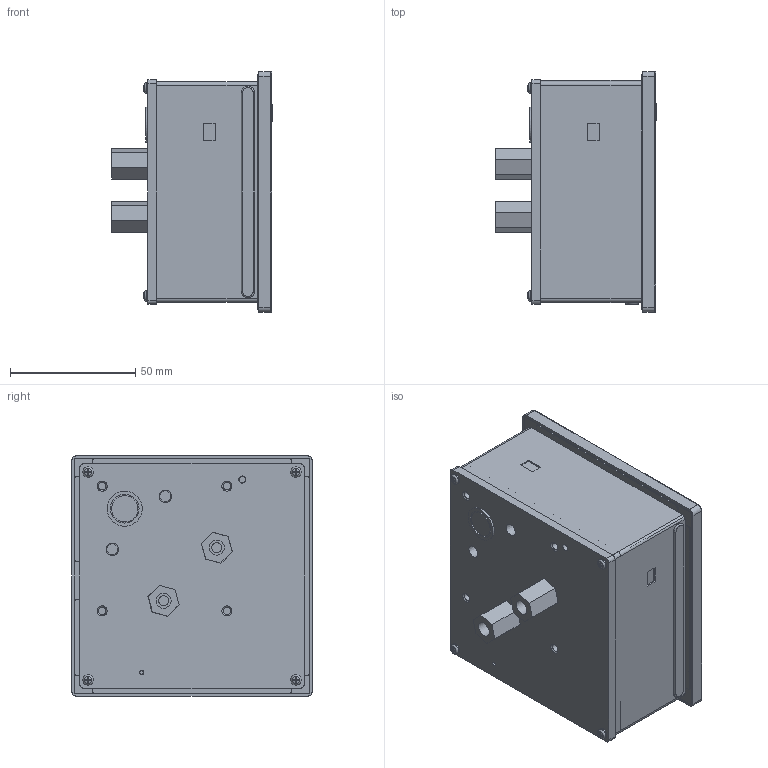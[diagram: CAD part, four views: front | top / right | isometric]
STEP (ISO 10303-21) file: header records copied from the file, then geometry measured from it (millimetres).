
FILE_DESCRIPTION(/* description */ (''),/* implementation_level */ '2;1');
FILE_NAME(/* name */ 'EC3V.step',/* time_stamp */ '2026-04-24T10:35:06+02:00',/* author */ (''),/* organization */ (''),/* preprocessor_version */ 'ST-DEVELOPER v20.1',/* originating_system */ 'Autodesk Translation Framework v15.8.0.0',/* authorisation */ '');
FILE_SCHEMA (('AUTOMOTIVE_DESIGN { 1 0 10303 214 3 1 1 }'));
Products named in the file (40): EC3V; Trasera _3; Sistema EC3V; Aguja EC3V; 72-1ZHIJIAZUJIAN; 72-1SHANGBAOSHILUOMU; 72-1TIAOZHENGBI; 72-1TANDIAN; 96-1KEDONGZUJIAN_ASM; 72-1ZHUANZHOU1; 48-8LVCHENTAO; 96-1ZHENZHICHI; 72-1DONGPIAN; 96-1LVZHEN1; 72-1JINGPIANZUJIAN_ASM; 72-1JINGPIANJIA1; 72-1WUGUOZAIJINPIAN; 72-1YOUGUOZAIJINPIAN; YOUSI; SACI96-1LUODING; DT4C111; 96-1TIEZHONKUANG; 96-1ACZHONGKUANG; 96-1BIAOPAI; 96-3MIANKUANG1; 96-1QIANTIAO; 96-1BOLI; TIAOLING; 96-3TIAOLINGJINQUAN; 72-1HOUKONGGAI; F; 100XIANQUANZUJIAN_ASM; 100AXIANQUAN; 96100ADAODIANGAN; 96-1ACDAODIANGAN; ST2O2X22; ST3X12; M6PIMNGDIAN; LUOMU; DADIANLIUDAODIANGANLUOMU
Assembly tree (49 placements, depth 4):
  EC3V
    Trasera _3
    Sistema EC3V
    Aguja EC3V
      72-1ZHIJIAZUJIAN
      72-1SHANGBAOSHILUOMU
      72-1TIAOZHENGBI
      72-1TANDIAN
      96-1KEDONGZUJIAN_ASM
        72-1ZHUANZHOU1
        48-8LVCHENTAO
        96-1ZHENZHICHI
        72-1DONGPIAN
        96-1LVZHEN1
      72-1JINGPIANZUJIAN_ASM
        72-1JINGPIANJIA1
        72-1WUGUOZAIJINPIAN
        72-1YOUGUOZAIJINPIAN
      YOUSI
      SACI96-1LUODING  x2
    DT4C111
    96-1TIEZHONKUANG
    96-1ACZHONGKUANG
    96-1BIAOPAI
    96-3MIANKUANG1
    96-1QIANTIAO
    96-1BOLI
    96-1ACDAODIANGAN  x2
    ST2O2X22  x4
    ST3X12  x2
    TIAOLING
    96-3TIAOLINGJINQUAN
    72-1HOUKONGGAI
    F
    100XIANQUANZUJIAN_ASM
      100AXIANQUAN
      96100ADAODIANGAN  x2
    M6PIMNGDIAN  x2
    LUOMU  x2
    DADIANLIUDAODIANGANLUOMU  x2
Bounding box: 64.2 x 96 x 96 mm (x, y, z)
Volume: 94020.8 mm3; surface area: 147450.8 mm2
Topology: 46 solids, 49 shells, 1846 faces, 4719 edges, 3049 vertices
Faces by surface type: plane 1009, cylinder 436, bspline 264, cone 88, torus 43, sphere 6
Full cylindrical faces by diameter (mm): 0.48 x2, 1 x3, 1.2 x2, 1.4 x1, 1.63 x44, 1.729 x2, 1.75 x1, 1.8 x1, 1.96 x1, 2 x7, 2.1 x1, 2.3 x1, 2.35 x1, 2.4 x2, 2.5 x6, 2.6 x4, 2.7 x8, 3 x6, 3.1 x2, 3.2 x9, 4 x5, 4.2 x4, 4.6 x2, 5 x2, 6 x14, 6.1 x1, 6.2 x1, 6.5 x2, 7 x2, 7.5 x1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
Entity records: 80251 total; most frequent: CARTESIAN_POINT 41476, ORIENTED_EDGE 7968, DIRECTION 7623, EDGE_CURVE 3988, AXIS2_PLACEMENT_3D 2618, VERTEX_POINT 2567, LINE 2387, VECTOR 2387
